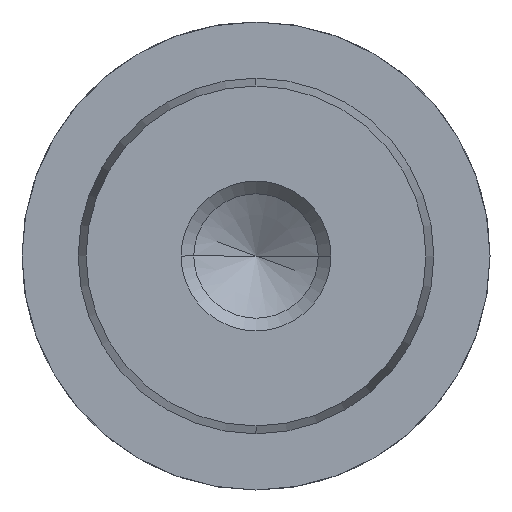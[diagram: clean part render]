
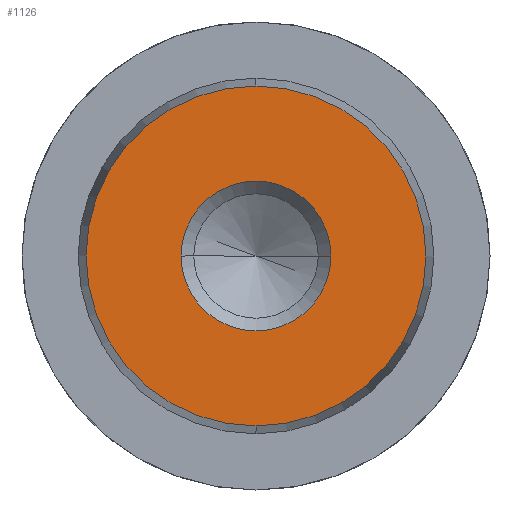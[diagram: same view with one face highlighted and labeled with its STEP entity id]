
A CAD part, left-side view. The second image highlights one B-rep face of the part: STEP entity #1126.
In plain terms, the highlighted planar face has unit normal (-1, 0, 0).
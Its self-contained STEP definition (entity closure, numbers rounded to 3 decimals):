
#1040=CARTESIAN_POINT('Vertex',(0.,0.,-9.078)) ;
#1043=CARTESIAN_POINT('Axis2P3D Location',(0.,0.,0.)) ;
#1047=CARTESIAN_POINT('Vertex',(0.,9.078,0.)) ;
#1050=CARTESIAN_POINT('Axis2P3D Location',(0.,0.,0.)) ;
#1054=CARTESIAN_POINT('Vertex',(0.,0.,9.078)) ;
#1076=CARTESIAN_POINT('Axis2P3D Location',(0.,0.,0.)) ;
#1080=CARTESIAN_POINT('Vertex',(0.,-9.078,0.)) ;
#1083=CARTESIAN_POINT('Axis2P3D Location',(0.,0.,0.)) ;
#1097=CARTESIAN_POINT('Axis2P3D Location',(0.,0.,0.)) ;
#1108=CARTESIAN_POINT('Axis2P3D Location',(0.,0.,0.)) ;
#1112=CARTESIAN_POINT('Vertex',(0.,4.,0.)) ;
#1114=CARTESIAN_POINT('Vertex',(0.,-4.,0.)) ;
#1117=CARTESIAN_POINT('Axis2P3D Location',(0.,0.,0.)) ;
#1044=DIRECTION('Axis2P3D Direction',(1.,-0.,0.)) ;
#1051=DIRECTION('Axis2P3D Direction',(1.,-0.,0.)) ;
#1077=DIRECTION('Axis2P3D Direction',(1.,0.,-0.)) ;
#1084=DIRECTION('Axis2P3D Direction',(1.,0.,-0.)) ;
#1098=DIRECTION('Axis2P3D Direction',(1.,0.,-0.)) ;
#1099=DIRECTION('Axis2P3D XDirection',(-0.,0.,-1.)) ;
#1109=DIRECTION('Axis2P3D Direction',(1.,0.,-0.)) ;
#1118=DIRECTION('Axis2P3D Direction',(1.,0.,-0.)) ;
#1045=AXIS2_PLACEMENT_3D('Circle Axis2P3D',#1043,#1044,$) ;
#1052=AXIS2_PLACEMENT_3D('Circle Axis2P3D',#1050,#1051,$) ;
#1078=AXIS2_PLACEMENT_3D('Circle Axis2P3D',#1076,#1077,$) ;
#1085=AXIS2_PLACEMENT_3D('Circle Axis2P3D',#1083,#1084,$) ;
#1100=AXIS2_PLACEMENT_3D('Plane Axis2P3D',#1097,#1098,#1099) ;
#1110=AXIS2_PLACEMENT_3D('Circle Axis2P3D',#1108,#1109,$) ;
#1119=AXIS2_PLACEMENT_3D('Circle Axis2P3D',#1117,#1118,$) ;
#1103=ORIENTED_EDGE('',*,*,#1049,.F.) ;
#1104=ORIENTED_EDGE('',*,*,#1087,.F.) ;
#1105=ORIENTED_EDGE('',*,*,#1082,.F.) ;
#1106=ORIENTED_EDGE('',*,*,#1056,.F.) ;
#1123=ORIENTED_EDGE('',*,*,#1116,.T.) ;
#1124=ORIENTED_EDGE('',*,*,#1121,.T.) ;
#1125=FACE_BOUND('',#1122,.T.) ;
#1126=ADVANCED_FACE('719-19x160',(#1107,#1125),#1101,.F.) ;
#1046=CIRCLE('generated circle',#1045,9.078) ;
#1053=CIRCLE('generated circle',#1052,9.078) ;
#1079=CIRCLE('generated circle',#1078,9.078) ;
#1086=CIRCLE('generated circle',#1085,9.078) ;
#1111=CIRCLE('generated circle',#1110,4.) ;
#1120=CIRCLE('generated circle',#1119,4.) ;
#1049=EDGE_CURVE('',#1041,#1048,#1046,.T.) ;
#1056=EDGE_CURVE('',#1048,#1055,#1053,.T.) ;
#1082=EDGE_CURVE('',#1055,#1081,#1079,.T.) ;
#1087=EDGE_CURVE('',#1081,#1041,#1086,.T.) ;
#1116=EDGE_CURVE('',#1113,#1115,#1111,.T.) ;
#1121=EDGE_CURVE('',#1115,#1113,#1120,.T.) ;
#1102=EDGE_LOOP('',(#1103,#1104,#1105,#1106)) ;
#1122=EDGE_LOOP('',(#1123,#1124)) ;
#1107=FACE_OUTER_BOUND('',#1102,.T.) ;
#1101=PLANE('Plane',#1100) ;
#1041=VERTEX_POINT('',#1040) ;
#1048=VERTEX_POINT('',#1047) ;
#1055=VERTEX_POINT('',#1054) ;
#1081=VERTEX_POINT('',#1080) ;
#1113=VERTEX_POINT('',#1112) ;
#1115=VERTEX_POINT('',#1114) ;
